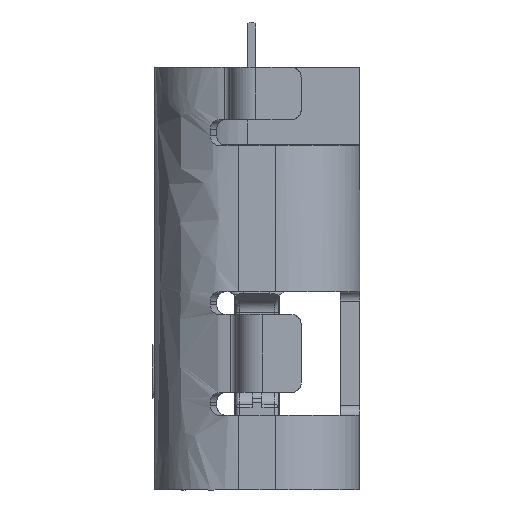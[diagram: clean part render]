
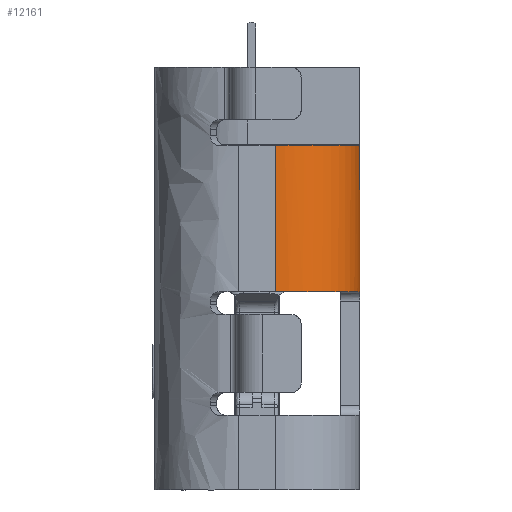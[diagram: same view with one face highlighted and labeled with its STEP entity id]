
A CAD part, left-side view. The second image highlights one B-rep face of the part: STEP entity #12161.
In plain terms, the highlighted free-form (B-spline) face has degree [1, 3] with [2, 4] control points.
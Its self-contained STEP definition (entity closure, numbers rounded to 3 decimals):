
#9 = CARTESIAN_POINT ( 'NONE',  ( -0.81, 4.696, -3.938 ) ) ;
#141 = LINE ( 'NONE', #8766, #7858 ) ;
#1140 = B_SPLINE_CURVE_WITH_KNOTS ( 'NONE', 3,
 ( #10531, #19016, #6011, #23282, #3875, #27919, #23704, #27502, #18873, #12506, #14777, #4153 ),
 .UNSPECIFIED., .F., .F.,
 ( 4, 2, 2, 2, 2, 4 ),
 ( 0., 0.001, 0.001, 0.001, 0.002, 0.002 ),
 .UNSPECIFIED. ) ;
#1243 = EDGE_CURVE ( 'NONE', #4167, #13360, #141, .T. ) ;
#2133 = CARTESIAN_POINT ( 'NONE',  ( -0.81, 4.696, -1.688 ) ) ;
#2817 = CARTESIAN_POINT ( 'NONE',  ( -1.465, 4.86, -3.938 ) ) ;
#2965 = CARTESIAN_POINT ( 'NONE',  ( -2.11, 5.824, -3.938 ) ) ;
#3715 = ORIENTED_EDGE ( 'NONE', *, *, #1243, .F. ) ;
#3875 = CARTESIAN_POINT ( 'NONE',  ( -1.461, 4.867, -1.688 ) ) ;
#4153 = CARTESIAN_POINT ( 'NONE',  ( -2.11, 5.996, -1.688 ) ) ;
#4167 = VERTEX_POINT ( 'NONE', #10549 ) ;
#4445 =( BOUNDED_SURFACE ( )  B_SPLINE_SURFACE ( 1, 3, ( 
 ( #2133, #10762, #19393, #13023 ),
 ( #9, #8637, #19534, #17269 ) ),
 .UNSPECIFIED., .F., .F., .F. ) 
 B_SPLINE_SURFACE_WITH_KNOTS ( ( 2, 2 ),
 ( 4, 4 ),
 ( 0., 1. ),
 ( 0., 1. ),
 .UNSPECIFIED. ) 
 GEOMETRIC_REPRESENTATION_ITEM ( )  RATIONAL_B_SPLINE_SURFACE ( (
 ( 1., 0.805, 0.805, 1.),
 ( 1., 0.805, 0.805, 1.) ) ) 
 REPRESENTATION_ITEM ( '' )  SURFACE ( )  );
#4519 = CARTESIAN_POINT ( 'NONE',  ( -2.11, 5.996, -3.938 ) ) ;
#4811 = CARTESIAN_POINT ( 'NONE',  ( -1.61, 4.957, -3.938 ) ) ;
#5130 = B_SPLINE_CURVE_WITH_KNOTS ( 'NONE', 1,
 ( #20399, #22679 ),
 .UNSPECIFIED., .F., .F.,
 ( 2, 2 ),
 ( -1., 0. ),
 .UNSPECIFIED. ) ;
#6011 = CARTESIAN_POINT ( 'NONE',  ( -1.151, 4.73, -1.688 ) ) ;
#6562 = CARTESIAN_POINT ( 'NONE',  ( -0.81, 4.696, -3.938 ) ) ;
#7474 = EDGE_CURVE ( 'NONE', #4167, #9534, #20857, .T. ) ;
#7858 = VECTOR ( 'NONE', #17396, 1000. ) ;
#8040 = EDGE_LOOP ( 'NONE', ( #17150, #3715, #12624, #11207 ) ) ;
#8637 = CARTESIAN_POINT ( 'NONE',  ( -1.572, 4.696, -3.938 ) ) ;
#8766 = CARTESIAN_POINT ( 'NONE',  ( -2.11, 5.996, -3.938 ) ) ;
#9412 = EDGE_CURVE ( 'NONE', #27899, #13360, #1140, .T. ) ;
#9534 = VERTEX_POINT ( 'NONE', #6562 ) ;
#10531 = CARTESIAN_POINT ( 'NONE',  ( -0.81, 4.696, -1.688 ) ) ;
#10549 = CARTESIAN_POINT ( 'NONE',  ( -2.11, 5.996, -3.938 ) ) ;
#10762 = CARTESIAN_POINT ( 'NONE',  ( -1.572, 4.696, -1.688 ) ) ;
#11050 = CARTESIAN_POINT ( 'NONE',  ( -2.077, 5.656, -3.938 ) ) ;
#11207 = ORIENTED_EDGE ( 'NONE', *, *, #15888, .T. ) ;
#12161 = ADVANCED_FACE ( 'NONE', ( #17134 ), #4445, .F. ) ;
#12506 = CARTESIAN_POINT ( 'NONE',  ( -2.076, 5.654, -1.688 ) ) ;
#12624 = ORIENTED_EDGE ( 'NONE', *, *, #7474, .T. ) ;
#13023 = CARTESIAN_POINT ( 'NONE',  ( -2.11, 5.996, -1.688 ) ) ;
#13166 = CARTESIAN_POINT ( 'NONE',  ( -1.79, 5.137, -3.938 ) ) ;
#13360 = VERTEX_POINT ( 'NONE', #22799 ) ;
#13441 = CARTESIAN_POINT ( 'NONE',  ( -0.982, 4.696, -3.938 ) ) ;
#14777 = CARTESIAN_POINT ( 'NONE',  ( -2.11, 5.824, -1.688 ) ) ;
#15285 = CARTESIAN_POINT ( 'NONE',  ( -1.153, 4.731, -3.938 ) ) ;
#15888 = EDGE_CURVE ( 'NONE', #9534, #27899, #5130, .T. ) ;
#17134 = FACE_OUTER_BOUND ( 'NONE', #8040, .T. ) ;
#17150 = ORIENTED_EDGE ( 'NONE', *, *, #9412, .T. ) ;
#17269 = CARTESIAN_POINT ( 'NONE',  ( -2.11, 5.996, -3.938 ) ) ;
#17396 = DIRECTION ( 'NONE',  ( 0., 0., 1. ) ) ;
#17972 = CARTESIAN_POINT ( 'NONE',  ( -0.81, 4.696, -1.688 ) ) ;
#18873 = CARTESIAN_POINT ( 'NONE',  ( -1.946, 5.341, -1.688 ) ) ;
#19016 = CARTESIAN_POINT ( 'NONE',  ( -0.982, 4.696, -1.688 ) ) ;
#19393 = CARTESIAN_POINT ( 'NONE',  ( -2.11, 5.235, -1.688 ) ) ;
#19534 = CARTESIAN_POINT ( 'NONE',  ( -2.11, 5.235, -3.938 ) ) ;
#20399 = CARTESIAN_POINT ( 'NONE',  ( -0.81, 4.696, -3.938 ) ) ;
#20857 = B_SPLINE_CURVE_WITH_KNOTS ( 'NONE', 3,
 ( #4519, #2965, #11050, #24484, #21809, #22367, #13166, #4811, #2817, #15285, #13441, #22083 ),
 .UNSPECIFIED., .F., .F.,
 ( 4, 2, 2, 2, 2, 4 ),
 ( 0., 0.001, 0.001, 0.001, 0.002, 0.002 ),
 .UNSPECIFIED. ) ;
#21809 = CARTESIAN_POINT ( 'NONE',  ( -1.939, 5.345, -3.938 ) ) ;
#22083 = CARTESIAN_POINT ( 'NONE',  ( -0.81, 4.696, -3.938 ) ) ;
#22367 = CARTESIAN_POINT ( 'NONE',  ( -1.845, 5.204, -3.938 ) ) ;
#22679 = CARTESIAN_POINT ( 'NONE',  ( -0.81, 4.696, -1.688 ) ) ;
#22799 = CARTESIAN_POINT ( 'NONE',  ( -2.11, 5.996, -1.688 ) ) ;
#23282 = CARTESIAN_POINT ( 'NONE',  ( -1.387, 4.828, -1.688 ) ) ;
#23704 = CARTESIAN_POINT ( 'NONE',  ( -1.669, 5.017, -1.688 ) ) ;
#24484 = CARTESIAN_POINT ( 'NONE',  ( -1.979, 5.42, -3.938 ) ) ;
#27502 = CARTESIAN_POINT ( 'NONE',  ( -1.849, 5.196, -1.688 ) ) ;
#27899 = VERTEX_POINT ( 'NONE', #17972 ) ;
#27919 = CARTESIAN_POINT ( 'NONE',  ( -1.603, 4.962, -1.688 ) ) ;
